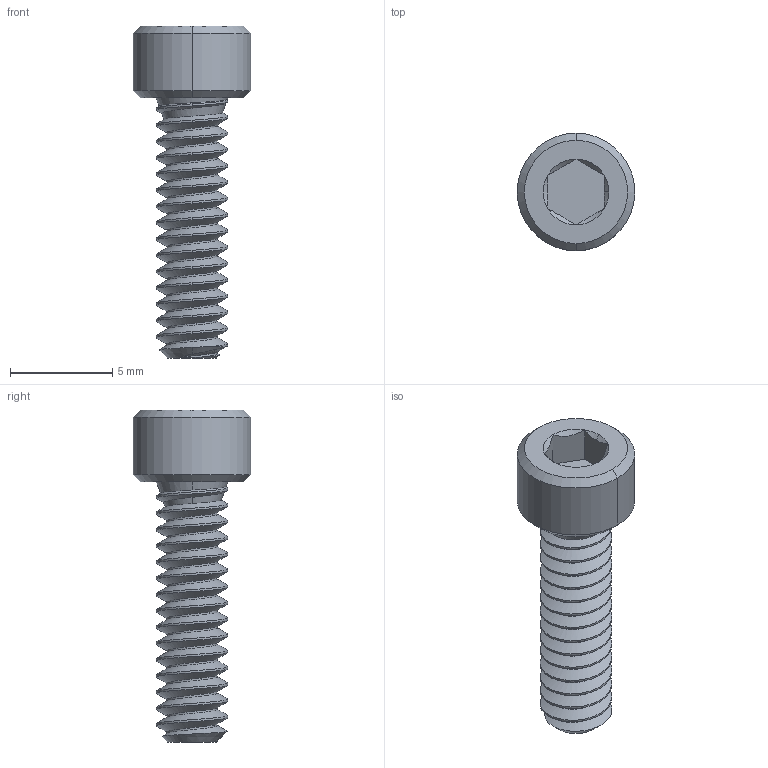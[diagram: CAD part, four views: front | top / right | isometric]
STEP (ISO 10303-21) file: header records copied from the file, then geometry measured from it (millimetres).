
FILE_DESCRIPTION (( 'STEP AP203' ), '1' );
FILE_NAME ('91251A148_Black-Oxide Alloy Steel Socket Head Screw.STEP', '2021-07-22T13:22:47', ( 'Administrator' ), ( 'Managed by Terraform' ), 'SwSTEP 2.0', 'SolidWorks 2017', '' );
FILE_SCHEMA (( 'CONFIG_CONTROL_DESIGN' ));
Length unit declared in the file: inch
Products named in the file (1): 91251A148_Black-Oxide Alloy Steel Socket Head Screw
Bounding box: 5.74 x 5.74 x 16.21 mm (x, y, z)
Volume: 167.8 mm3; surface area: 322.4 mm2
Topology: 1 solids, 1 shells, 66 faces, 168 edges, 106 vertices
Faces by surface type: cylinder 33, cone 20, plane 10, bspline 3
Entity records: 4661 total; most frequent: CARTESIAN_POINT 3227, ORIENTED_EDGE 336, DIRECTION 229, EDGE_CURVE 168, VERTEX_POINT 106, AXIS2_PLACEMENT_3D 86, EDGE_LOOP 68, ADVANCED_FACE 66
